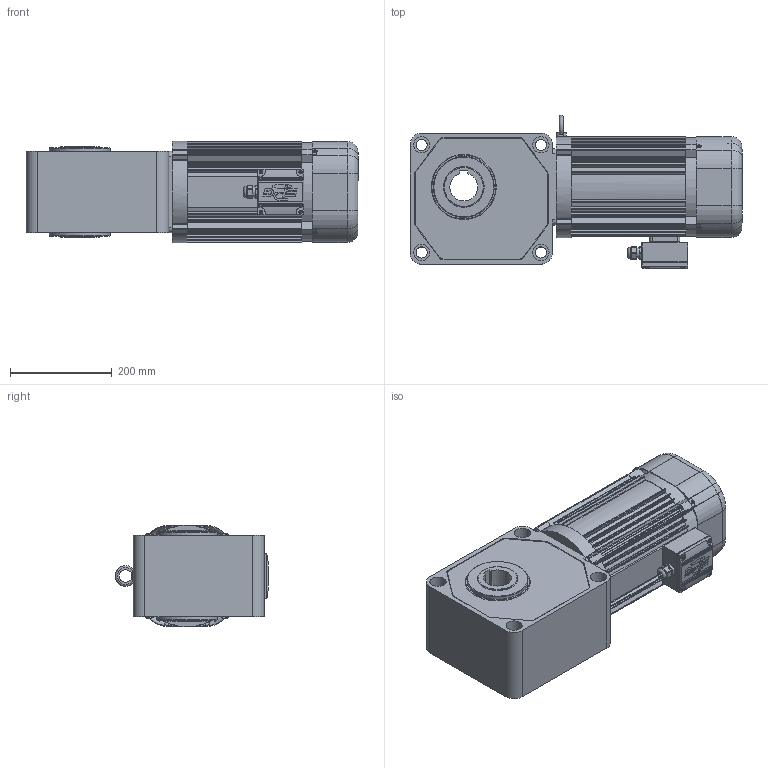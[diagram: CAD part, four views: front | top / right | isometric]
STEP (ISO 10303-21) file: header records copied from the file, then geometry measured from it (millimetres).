
FILE_DESCRIPTION(/* description */ (''),/* implementation_level */ '2;1');
FILE_NAME(/* name */ 'Z:\동력 3D 파일\PCH55_2.2kW_Brake_3D.stp',/* time_stamp */ '2021-11-09T10:25:37+09:00',/* author */ ('jaebok'),/* organization */ (''),/* preprocessor_version */ 'ST-DEVELOPER v18.1',/* originating_system */ 'Autodesk Inventor 2022',/* authorisation */ '');
FILE_SCHEMA (('AUTOMOTIVE_DESIGN { 1 0 10303 214 3 1 1 }'));
Length unit declared in the file: millimetre
Products named in the file (1): 부품34
Bounding box: 654.1 x 302.49 x 200.79 mm (x, y, z)
Volume: 14849842.5 mm3; surface area: 1164125.1 mm2
Topology: 1 solids, 25 shells, 1456 faces, 3897 edges, 2536 vertices
Faces by surface type: plane 718, cylinder 627, torus 52, cone 45, bspline 10, sphere 4
Full cylindrical faces by diameter (mm): 3.242 x4, 3.25 x1, 3.6 x4, 4 x21, 5 x13, 6 x5, 6.647 x4, 7 x8, 8 x1, 8.8 x1, 9 x4, 10 x3, 12.5 x1, 15 x1, 20 x2, 21 x1, 22 x4, 23.6 x1, 25 x2, 32 x4, 36 x1, 120 x2, 175 x1, 176 x1, 180 x2, 181 x1, 182 x1, 185.4 x2, 188 x4
Entity records: 48554 total; most frequent: CARTESIAN_POINT 9731, DIRECTION 8141, ORIENTED_EDGE 7768, EDGE_CURVE 3884, AXIS2_PLACEMENT_3D 3008, VERTEX_POINT 2536, LINE 2125, VECTOR 2125
